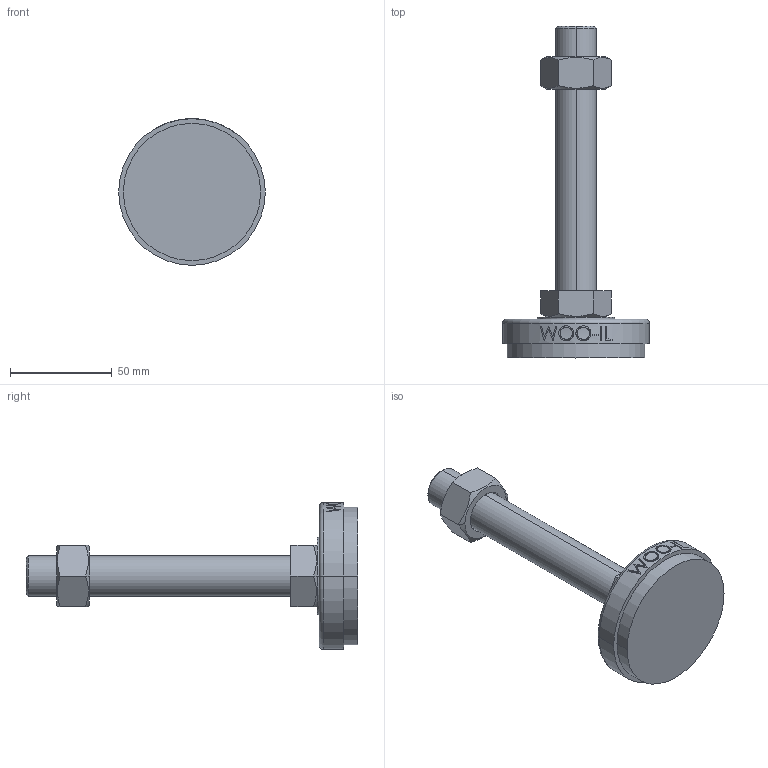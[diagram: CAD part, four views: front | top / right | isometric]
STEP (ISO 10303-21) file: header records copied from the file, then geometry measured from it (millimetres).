
FILE_DESCRIPTION (( 'STEP AP214' ), '1' );
FILE_NAME ('NS72-M20-130.step', '2021-01-11T05:48:20', ( '' ), ( '' ), 'SwSTEP 2.0', 'SolidWorks 2019', '' );
FILE_SCHEMA (( 'AUTOMOTIVE_DESIGN' ));
Length unit declared in the file: millimetre
Products named in the file (2): NS72-M20-130
Bounding box: 72 x 163 x 72 mm (x, y, z)
Volume: 132924.8 mm3; surface area: 26697.7 mm2
Topology: 3 solids, 3 shells, 96 faces, 223 edges, 144 vertices
Faces by surface type: plane 48, cylinder 18, bspline 16, cone 12, torus 2
Entity records: 4274 total; most frequent: CARTESIAN_POINT 2149, ORIENTED_EDGE 446, DIRECTION 381, EDGE_CURVE 223, VERTEX_POINT 144, AXIS2_PLACEMENT_3D 142, EDGE_LOOP 109, LINE 97
